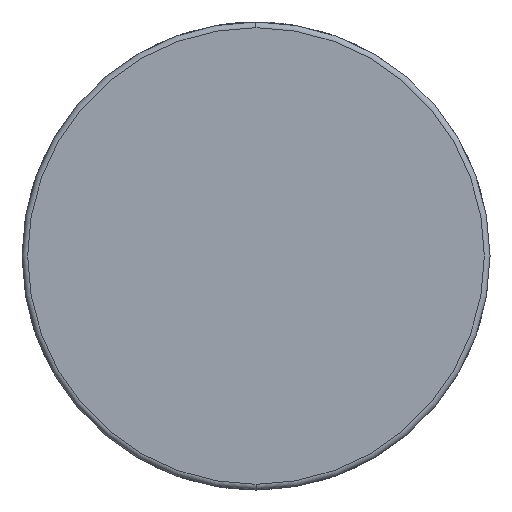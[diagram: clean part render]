
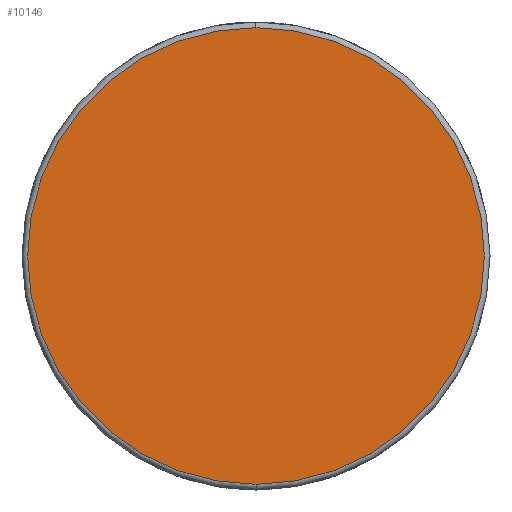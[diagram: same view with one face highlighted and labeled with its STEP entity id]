
A CAD part, left-side view. The second image highlights one B-rep face of the part: STEP entity #10146.
In plain terms, the highlighted planar face has unit normal (-1, 0, 0).
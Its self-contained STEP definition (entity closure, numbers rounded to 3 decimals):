
#852 = AXIS2_PLACEMENT_3D ( 'NONE', #3183, #2283, #8892 ) ;
#1338 = CIRCLE ( 'NONE', #10000, 10.1 ) ;
#1455 = PLANE ( 'NONE',  #852 ) ;
#1948 = ORIENTED_EDGE ( 'NONE', *, *, #6275, .T. ) ;
#2283 = DIRECTION ( 'NONE',  ( 1., 0., 0. ) ) ;
#2675 = CARTESIAN_POINT ( 'NONE',  ( 0., 0., 0. ) ) ;
#3183 = CARTESIAN_POINT ( 'NONE',  ( 0., 0., 0. ) ) ;
#3655 = VERTEX_POINT ( 'NONE', #9307 ) ;
#3690 = CARTESIAN_POINT ( 'NONE',  ( 0., 0., -10.1 ) ) ;
#4173 = AXIS2_PLACEMENT_3D ( 'NONE', #10032, #9895, #4901 ) ;
#4234 = DIRECTION ( 'NONE',  ( -1., 0., 0. ) ) ;
#4320 = EDGE_LOOP ( 'NONE', ( #1948, #9471 ) ) ;
#4590 = FACE_OUTER_BOUND ( 'NONE', #4320, .T. ) ;
#4901 = DIRECTION ( 'NONE',  ( 0., 0., -1. ) ) ;
#5814 = EDGE_CURVE ( 'NONE', #3655, #6469, #1338, .T. ) ;
#6275 = EDGE_CURVE ( 'NONE', #6469, #3655, #7423, .T. ) ;
#6469 = VERTEX_POINT ( 'NONE', #3690 ) ;
#6721 = DIRECTION ( 'NONE',  ( 0., 0., -1. ) ) ;
#7423 = CIRCLE ( 'NONE', #4173, 10.1 ) ;
#8892 = DIRECTION ( 'NONE',  ( 0., 0., -1. ) ) ;
#9307 = CARTESIAN_POINT ( 'NONE',  ( 0., 0., 10.1 ) ) ;
#9471 = ORIENTED_EDGE ( 'NONE', *, *, #5814, .T. ) ;
#9895 = DIRECTION ( 'NONE',  ( -1., 0., 0. ) ) ;
#10000 = AXIS2_PLACEMENT_3D ( 'NONE', #2675, #4234, #6721 ) ;
#10032 = CARTESIAN_POINT ( 'NONE',  ( 0., 0., 0. ) ) ;
#10146 = ADVANCED_FACE ( 'NONE', ( #4590 ), #1455, .F. ) ;
